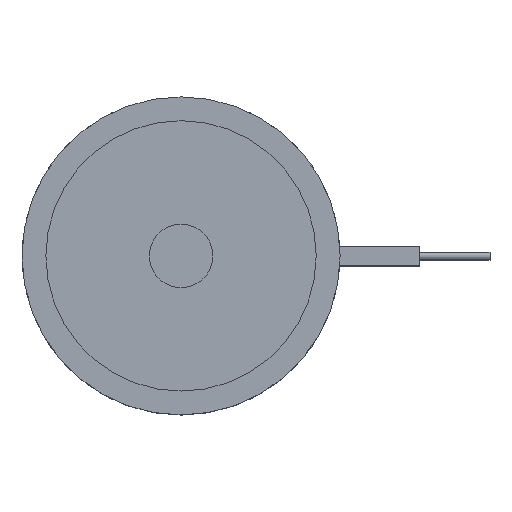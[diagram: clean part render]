
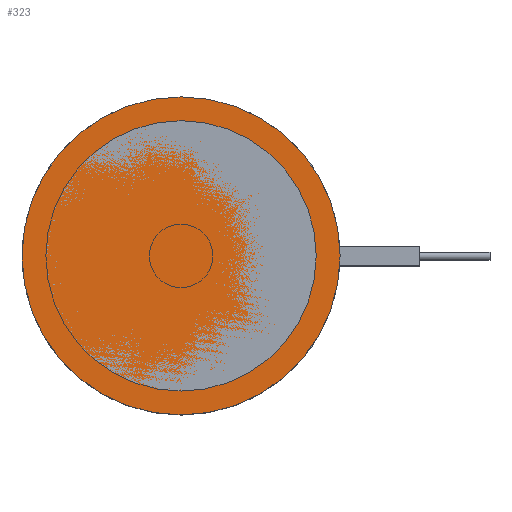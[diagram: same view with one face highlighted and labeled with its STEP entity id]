
A CAD part, top view. The second image highlights one B-rep face of the part: STEP entity #323.
In plain terms, the highlighted planar face has unit normal (0, 0, 1).
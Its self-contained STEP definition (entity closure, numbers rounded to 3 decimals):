
#224=PLANE('',#1089);
#260=FACE_OUTER_BOUND('',#491,.T.);
#323=ADVANCED_FACE('',(#260),#224,.F.);
#491=EDGE_LOOP('',(#621));
#621=ORIENTED_EDGE('',*,*,#903,.F.);
#812=VERTEX_POINT('',#1572);
#903=EDGE_CURVE('',#812,#812,#1001,.T.);
#1001=CIRCLE('',#1088,20.);
#1088=AXIS2_PLACEMENT_3D('',#1571,#1278,#1279);
#1089=AXIS2_PLACEMENT_3D('',#1573,#1280,#1281);
#1278=DIRECTION('',(0.,0.,-1.));
#1279=DIRECTION('',(-1.,0.,0.));
#1280=DIRECTION('',(0.,0.,-1.));
#1281=DIRECTION('',(-1.,0.,0.));
#1571=CARTESIAN_POINT('',(0.,0.,0.));
#1572=CARTESIAN_POINT('',(-20.,0.,0.));
#1573=CARTESIAN_POINT('',(0.,0.,0.));
